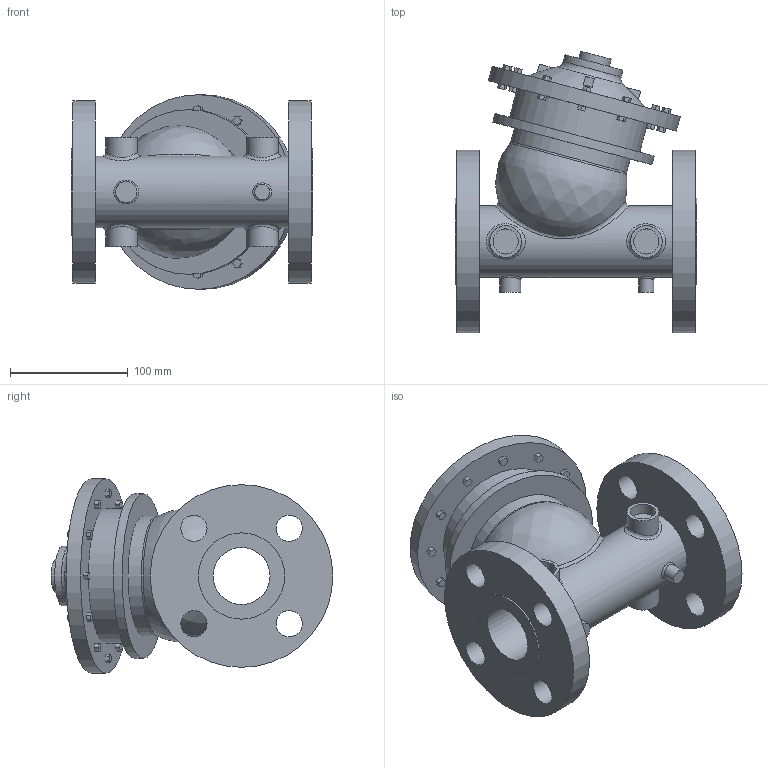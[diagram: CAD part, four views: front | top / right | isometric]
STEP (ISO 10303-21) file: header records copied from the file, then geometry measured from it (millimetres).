
FILE_DESCRIPTION(/* description */ ('VIC FP VALVE PRESSURE RELIEF SERIES 867-7UF (FLG 300)','CAx-IF Rec.Pracs.---Representation and Presentation of Product Manufacturing Information (PMI)---4.0---2014-10-13'),/* implementation_level */ '2;1');
FILE_NAME(/* name */ 'C:\Series 867-7UF\Series 867-7UF final\Victaulic_FP-Bermad_Valve Pressure Relief_Series 867-7UF (FLG 300)\Victaulic_FP-Bermad_Valve Pressure Relief_Series 867-7UF (FLG 300)_1.5 (40).stp',/* time_stamp */ '2021-09-02T16:52:55+05:00',/* author */ ('kkamble'),/* organization */ ('Victaulic'),/* preprocessor_version */ 'ST-DEVELOPER v17.2',/* originating_system */ 'Autodesk Inventor 2019',/* authorisation */ '');
FILE_SCHEMA (('AP242_MANAGED_MODEL_BASED_3D_ENGINEERING_MIM_LF { 1 0 10303 442 1 1 4 }'));
Length unit declared in the file: inch
Products named in the file (1): 867-7UF-01.5
Bounding box: 204.98 x 239 x 165.1 mm (x, y, z)
Volume: 2121115 mm3; surface area: 248334.4 mm2
Topology: 1 solids, 1 shells, 247 faces, 625 edges, 425 vertices
Faces by surface type: plane 206, cylinder 30, bspline 9, torus 2
Full cylindrical faces by diameter (mm): 12.7 x1, 17.78 x1, 21.336 x4, 22.225 x8, 26.67 x1, 26.873 x4, 48.26 x1, 50.8 x1, 60.96 x1, 73.152 x2, 101.6 x1, 114.3 x1, 139.7 x1, 154.94 x2, 165.1 x1
Entity records: 8922 total; most frequent: CARTESIAN_POINT 2486, ORIENTED_EDGE 1262, DIRECTION 1194, EDGE_CURVE 631, LINE 490, VECTOR 490, VERTEX_POINT 431, AXIS2_PLACEMENT_3D 352
